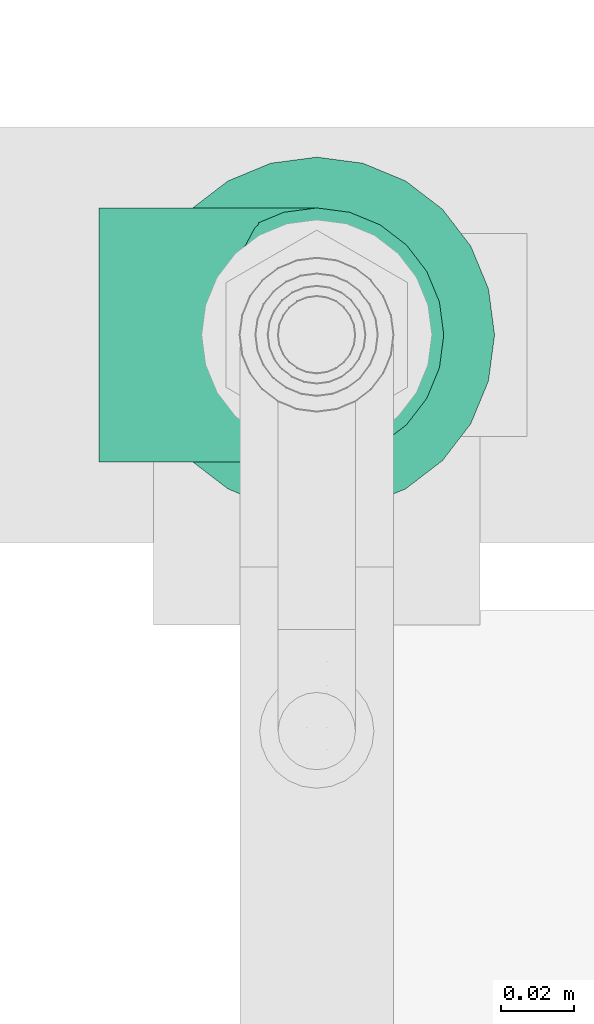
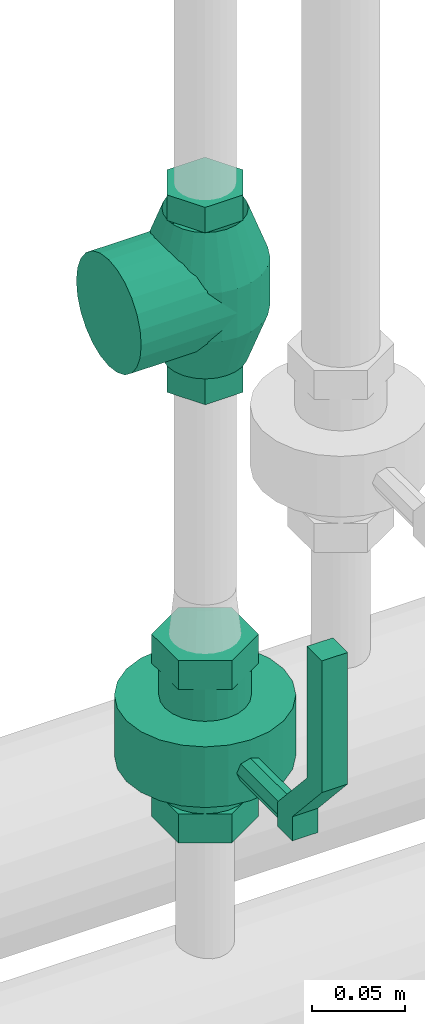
# One storey, part 264 of 374: 1 distribution control element, 1 flow controller.
"""IFC2X3 building model written with IfcOpenShell, lengths in metres."""

import ifcopenshell
import ifcopenshell.guid

model = None  # the IFC model being written
_history = None  # IfcOwnerHistory: only IFC2X3 demands one
_inside = {}  # id of a spatial element -> (the spatial element, [elements in it])
_under = {}  # id of a project, library or spatial element -> (it, [spatial elements below it])
_declared = {}  # id of a project -> (the project, [libraries it declares])
_typed = {}  # id of a type object -> (the type object, [elements of that type])
_made_of = {}  # id of a material, layer set ... -> (it, [elements and type objects made of it])


def new_model(schema):
    """Start an empty IFC model of exactly this schema.

    Asked for "IFC4X3", IfcOpenShell would pick the latest addendum, in which some entities
    have other attributes; the version numbers below select the first issue.
    IFC2X3 requires an IfcOwnerHistory on every rooted entity: one is made here for all.
    """
    global model, _history
    if schema == "IFC4X3":
        model = ifcopenshell.file(schema_version=(4, 3, 0, 0))
    else:
        model = ifcopenshell.file(schema=schema)
    _inside.clear()
    _under.clear()
    _declared.clear()
    _typed.clear()
    _made_of.clear()
    _history = None
    if model.schema == "IFC2X3":
        org = make("IfcOrganization", Name="unknown")
        user = make(
            "IfcPersonAndOrganization",
            ThePerson=make("IfcPerson", FamilyName="unknown"),
            TheOrganization=org,
        )
        app = make(
            "IfcApplication",
            ApplicationDeveloper=org,
            Version="unknown",
            ApplicationFullName="unknown",
            ApplicationIdentifier="unknown",
        )
        _history = make(
            "IfcOwnerHistory",
            OwningUser=user,
            OwningApplication=app,
            ChangeAction="ADDED",
            CreationDate=0,
        )
    return model


def make(cls, **values):
    """One entity of the class cls with the attributes given. An attribute that is None is left unset."""
    return model.create_entity(
        cls, **{name: value for name, value in values.items() if value is not None}
    )


def rooted(cls, **values):
    """An entity with a GlobalId (a new one), such as an element, a storey or a relation."""
    return make(cls, GlobalId=ifcopenshell.guid.new(), OwnerHistory=_history, **values)


def si_unit(unit_type, name, prefix=None):
    """IfcSIUnit, for example si_unit("LENGTHUNIT", "METRE", prefix="MILLI")."""
    return make("IfcSIUnit", UnitType=unit_type, Prefix=prefix, Name=name)


def assignment(units):
    """IfcUnitAssignment: the units of a project."""
    return None if units is None else make("IfcUnitAssignment", Units=units)


def point(xyz):
    """IfcCartesianPoint."""
    return None if xyz is None else make("IfcCartesianPoint", Coordinates=xyz)


def direction(xyz):
    """IfcDirection."""
    return None if xyz is None else make("IfcDirection", DirectionRatios=xyz)


def frame(location, z_axis=None, x_axis=None):
    """IfcAxis2Placement3D, a coordinate frame: its origin and axes. An axis left out is left unset."""
    return make(
        "IfcAxis2Placement3D",
        Location=point(location),
        Axis=direction(z_axis),
        RefDirection=direction(x_axis),
    )


def origin():
    """The frame at (0, 0, 0) with its axes left unset."""
    return frame((0.0, 0.0, 0.0))


def place(relative_to, where):
    """IfcLocalPlacement: puts the frame where relative to a parent placement (None: the world)."""
    return make(
        "IfcLocalPlacement", PlacementRelTo=relative_to, RelativePlacement=where
    )


def context(
    kind, dimensions, precision=None, world=None, true_north=None, identifier=None
):
    """IfcGeometricRepresentationContext, for example the 3D "Model" context."""
    return make(
        "IfcGeometricRepresentationContext",
        ContextIdentifier=identifier,
        ContextType=kind,
        CoordinateSpaceDimension=dimensions,
        Precision=precision,
        WorldCoordinateSystem=world,
        TrueNorth=true_north,
    )


def subcontext(parent, identifier, kind, view, scale=None):
    """IfcGeometricRepresentationSubContext, for example "Body" below "Model"."""
    return make(
        "IfcGeometricRepresentationSubContext",
        ContextIdentifier=identifier,
        ContextType=kind,
        ParentContext=parent,
        TargetScale=scale,
        TargetView=view,
    )


def project(units=None, contexts=None):
    """IfcProject with its units and contexts."""
    return rooted(
        "IfcProject",
        Name="project",
        RepresentationContexts=contexts,
        UnitsInContext=assignment(units),
    )


def spatial(cls, under=None, at=None, **own):
    """A site, building, storey or space (cls), placed at a placement, below another one or the project."""
    s = rooted(cls, ObjectPlacement=at, **own)
    if under is not None:
        _under.setdefault(under.id(), (under, []))[1].append(s)
    return s


def faces_of(points, faces, orient=None, outer=None):
    """IfcFace entities. A face is a list of loops; a loop is a list of indices into points, from 0.

    orient and outer hold one flag for each loop. By default every Orientation is true, the
    first loop of a face is its IfcFaceOuterBound and the others are IfcFaceBound.
    """
    made = []
    for i, loops in enumerate(faces):
        bounds = []
        for j, loop in enumerate(loops):
            is_outer = j == 0 if outer is None else outer[i][j]
            bounds.append(
                make(
                    "IfcFaceOuterBound" if is_outer else "IfcFaceBound",
                    Bound=make("IfcPolyLoop", Polygon=[points[k] for k in loop]),
                    Orientation=True if orient is None else orient[i][j],
                )
            )
        made.append(make("IfcFace", Bounds=bounds))
    return made


def open_shell(faces, orient=None, outer=None):
    """The faces of one IfcOpenShell. surface_model builds it on its shared points."""
    return ("IfcOpenShell", faces, orient, outer)


def surface_model(cls, points, shells):
    """IfcFaceBasedSurfaceModel or IfcShellBasedSurfaceModel (cls): surfaces that need not close."""
    shared = [point(p) for p in points]
    made = [make(c, CfsFaces=faces_of(shared, fs, o, b)) for c, fs, o, b in shells]
    if cls == "IfcFaceBasedSurfaceModel":
        return make(cls, FbsmFaces=made)
    return make(cls, SbsmBoundary=made)


def shape(context_of_items, identifier, shape_type, items):
    """IfcShapeRepresentation: the items that make up one representation, for example the "Body"."""
    return make(
        "IfcShapeRepresentation",
        ContextOfItems=context_of_items,
        RepresentationIdentifier=identifier,
        RepresentationType=shape_type,
        Items=items,
    )


def source(mapping_origin, context_of_items, identifier, shape_type, items):
    """IfcRepresentationMap: a shape defined once, which mapped items show again and again."""
    return make(
        "IfcRepresentationMap",
        MappingOrigin=mapping_origin,
        MappedRepresentation=shape(context_of_items, identifier, shape_type, items),
    )


def transform(
    local_origin,
    x_axis=None,
    y_axis=None,
    z_axis=None,
    scale=None,
    scale2=None,
    scale3=None,
    uniform=True,
):
    """IfcCartesianTransformationOperator3D, or its non-uniform kind. x_axis, y_axis, z_axis: its Axis1, 2, 3."""
    if uniform:
        return make(
            "IfcCartesianTransformationOperator3D",
            Axis1=direction(x_axis),
            Axis2=direction(y_axis),
            LocalOrigin=point(local_origin),
            Scale=scale,
            Axis3=direction(z_axis),
        )
    return make(
        "IfcCartesianTransformationOperator3DnonUniform",
        Axis1=direction(x_axis),
        Axis2=direction(y_axis),
        LocalOrigin=point(local_origin),
        Scale=scale,
        Axis3=direction(z_axis),
        Scale2=scale2,
        Scale3=scale3,
    )


def mapped(mapping_source, mapping_target):
    """IfcMappedItem: shows the shape of a source again, moved by a transform."""
    return make(
        "IfcMappedItem", MappingSource=mapping_source, MappingTarget=mapping_target
    )


def made_of(thing, what):
    """Note that an element or type object is made of a material, layer set ...; save() writes the relation."""
    if what is not None:
        _made_of.setdefault(what.id(), (what, []))[1].append(thing)
    return thing


def element(
    cls,
    number,
    at=None,
    inside=None,
    cuts=None,
    type_object=None,
    material=None,
    context=None,
    identifier="Body",
    shape_type=None,
    held_by="IfcProductDefinitionShape",
    body=None,
    shapes=None,
    **own,
):
    """One element of the class cls, such as IfcWall. Its Tag is "e" and its number.

    at: its placement. inside: the storey or other place that contains it. cuts: it is an
    opening in that element (IfcRelVoidsElement). A single representation is given by context,
    identifier, shape_type and body (its items); several are given by shapes. held_by: the class
    of the entity that holds the representations. save() writes the other relations.
    """
    e = rooted(cls, Tag="e%d" % number, ObjectPlacement=at, **own)
    if body is not None:
        shapes = [shape(context, identifier, shape_type, body)]
    if shapes is not None:
        e.Representation = make(held_by, Representations=shapes)
    if inside is not None:
        _inside.setdefault(inside.id(), (inside, []))[1].append(e)
    if cuts is not None:
        rooted(
            "IfcRelVoidsElement", RelatingBuildingElement=cuts, RelatedOpeningElement=e
        )
    if type_object is not None:
        _typed.setdefault(type_object.id(), (type_object, []))[1].append(e)
    return made_of(e, material)


def aggregate(whole, parts):
    """IfcRelAggregates: a whole, such as a stair, and the parts it consists of."""
    return rooted("IfcRelAggregates", RelatingObject=whole, RelatedObjects=parts)


def save(model, path):
    """Write the relations noted so far, then the file.

    IfcRelAggregates (storeys below a building ...), IfcRelContainedInSpatialStructure (elements
    in a storey), IfcRelDefinesByType, IfcRelAssociatesMaterial and IfcRelDeclares: one each for
    every whole, place, type object, material and project.
    """
    for whole, parts in _under.values():
        aggregate(whole, parts)
    for where, things in _inside.values():
        rooted(
            "IfcRelContainedInSpatialStructure",
            RelatedElements=things,
            RelatingStructure=where,
        )
    for kind, things in _typed.values():
        rooted("IfcRelDefinesByType", RelatedObjects=things, RelatingType=kind)
    for what, things in _made_of.values():
        rooted("IfcRelAssociatesMaterial", RelatedObjects=things, RelatingMaterial=what)
    for by, libraries in _declared.values():
        rooted("IfcRelDeclares", RelatingContext=by, RelatedDefinitions=libraries)
    model.write(path)


model = new_model("IFC2X3")

# Units and contexts
model_context = context("Model", 3, precision=1e-05, world=origin(), true_north=direction((-0.4480736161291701, 0.8939966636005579)))
body_context = subcontext(model_context, "Body", "Model", "MODEL_VIEW")
ifc_project = project(units=[si_unit("LENGTHUNIT", "METRE"), si_unit("AREAUNIT", "SQUARE_METRE"), si_unit("VOLUMEUNIT", "CUBIC_METRE"), si_unit("PLANEANGLEUNIT", "RADIAN"), si_unit("THERMODYNAMICTEMPERATUREUNIT", "KELVIN"), si_unit("MASSUNIT", "GRAM", prefix="KILO"), si_unit("TIMEUNIT", "SECOND")], contexts=[model_context])

# Site, building, storey
site_placement = place(None, origin())
site = spatial("IfcSite", under=ifc_project, at=site_placement, Name="Site 1", CompositionType="ELEMENT")
building_placement = place(site_placement, origin())
building = spatial("IfcBuilding", under=site, at=building_placement, Name="Undefined", CompositionType="ELEMENT")
storey_placement = place(building_placement, origin())
storey = spatial("IfcBuildingStorey", under=building, at=storey_placement, Name="Rez de chauss\x8ee", CompositionType="ELEMENT", Elevation=0.0)

# Flow controller
shared_shape_1 = source(origin(), body_context, "Body", "SurfaceModel", [
    surface_model("IfcFaceBasedSurfaceModel", [(0.0, 0.0, 0.0), (0.016000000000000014, 0.0, 0.0), (0.016000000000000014, 0.015999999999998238, 0.0), (0.0, 0.015999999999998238, 0.0), (0.016000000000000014, 0.0, 0.016000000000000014), (0.016000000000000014, 0.015999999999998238, 0.016000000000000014), (0.0, 0.0, 0.016000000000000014), (0.0, 0.015999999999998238, 0.016000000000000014), (-0.03533333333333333, 0.0, 0.04800000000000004), (-0.03533333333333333, 0.015999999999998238, 0.04800000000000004), (-0.122, 0.0, 0.04800000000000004), (-0.122, 0.015999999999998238, 0.04800000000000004), (-0.122, 0.0, 0.03200000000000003), (-0.122, 0.015999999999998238, 0.03200000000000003), (-0.03533333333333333, 0.0, 0.03200000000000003), (-0.03533333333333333, 0.015999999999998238, 0.03200000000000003), (0.06800000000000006, 0.03300000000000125, -0.10643375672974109), (0.06800000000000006, 0.03300000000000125, -0.07756624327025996), (0.0489, 0.03300000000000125, -0.07756624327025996), (0.0489, 0.03300000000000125, -0.10643375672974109), (0.06800000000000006, 0.007999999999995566, -0.12086751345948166), (0.0489, 0.007999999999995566, -0.12086751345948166), (0.06800000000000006, -0.017000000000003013, -0.10643375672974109), (0.0489, -0.017000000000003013, -0.10643375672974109), (0.06800000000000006, -0.017000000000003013, -0.07756624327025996), (0.0489, -0.017000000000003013, -0.07756624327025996), (0.06800000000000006, 0.007999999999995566, -0.06313248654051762), (0.0489, 0.007999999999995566, -0.06313248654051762), (0.0489, -0.017000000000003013, -0.09200000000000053), (0.0489, -0.016148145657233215, -0.08552952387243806), (0.028000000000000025, -0.016148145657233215, -0.08552952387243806), (0.028000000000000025, -0.017000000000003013, -0.09200000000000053), (0.0489, -0.0136506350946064, -0.07949999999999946), (0.028000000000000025, -0.0136506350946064, -0.07949999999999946), (0.0489, -0.009677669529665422, -0.07432233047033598), (0.028000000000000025, -0.009677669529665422, -0.07432233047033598), (0.0489, -0.0045000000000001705, -0.07034936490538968), (0.028000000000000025, -0.0045000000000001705, -0.07034936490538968), (0.0489, 0.0015295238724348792, -0.06785185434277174), (0.028000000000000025, 0.0015295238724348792, -0.06785185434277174), (0.0489, 0.007999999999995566, -0.06700000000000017), (0.028000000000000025, 0.007999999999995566, -0.06700000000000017), (0.0489, 0.014470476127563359, -0.06785185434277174), (0.028000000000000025, 0.014470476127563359, -0.06785185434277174), (0.0489, 0.02049999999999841, -0.07034936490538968), (0.028000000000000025, 0.02049999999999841, -0.07034936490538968), (0.0489, 0.02567766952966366, -0.07432233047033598), (0.028000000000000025, 0.02567766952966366, -0.07432233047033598), (0.0489, 0.029650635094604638, -0.07949999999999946), (0.028000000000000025, 0.029650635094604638, -0.07949999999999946), (0.0489, 0.03214814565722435, -0.08552952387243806), (0.028000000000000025, 0.03214814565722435, -0.08552952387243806), (0.0489, 0.03300000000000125, -0.09200000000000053), (0.028000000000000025, 0.03300000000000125, -0.09200000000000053), (0.0489, 0.03214814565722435, -0.09847047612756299), (0.028000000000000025, 0.03214814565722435, -0.09847047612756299), (0.0489, 0.029650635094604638, -0.10449999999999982), (0.028000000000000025, 0.029650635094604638, -0.10449999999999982), (0.0489, 0.02567766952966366, -0.10967766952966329), (0.028000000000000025, 0.02567766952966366, -0.10967766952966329), (0.0489, 0.02049999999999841, -0.11365063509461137), (0.028000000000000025, 0.02049999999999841, -0.11365063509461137), (0.0489, 0.014470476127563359, -0.11614814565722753), (0.028000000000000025, 0.014470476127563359, -0.11614814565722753), (0.0489, 0.007999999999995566, -0.1169999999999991), (0.028000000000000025, 0.007999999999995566, -0.1169999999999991), (0.0489, 0.0015295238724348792, -0.11614814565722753), (0.028000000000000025, 0.0015295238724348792, -0.11614814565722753), (0.0489, -0.0045000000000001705, -0.11365063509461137), (0.028000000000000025, -0.0045000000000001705, -0.11365063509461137), (0.0489, -0.009677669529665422, -0.10967766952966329), (0.028000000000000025, -0.009677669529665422, -0.10967766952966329), (0.0489, -0.0136506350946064, -0.10449999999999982), (0.028000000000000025, -0.0136506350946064, -0.10449999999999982), (0.0489, -0.016148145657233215, -0.09847047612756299), (0.028000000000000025, -0.016148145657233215, -0.09847047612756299), (0.028000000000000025, -0.04100000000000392, -0.09200000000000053), (0.028000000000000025, -0.03933036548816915, -0.07931786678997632), (-0.01200000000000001, -0.03933036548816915, -0.07931786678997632), (-0.01200000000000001, -0.04100000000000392, -0.09200000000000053), (0.028000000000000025, -0.03443524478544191, -0.067499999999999), (-0.01200000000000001, -0.03443524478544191, -0.067499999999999), (0.028000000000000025, -0.026648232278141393, -0.05735176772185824), (-0.01200000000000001, -0.026648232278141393, -0.05735176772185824), (0.028000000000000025, -0.016500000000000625, -0.049564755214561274), (-0.01200000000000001, -0.016500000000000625, -0.049564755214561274), (0.028000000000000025, -0.004682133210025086, -0.04466963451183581), (-0.01200000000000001, -0.004682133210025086, -0.04466963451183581), (0.028000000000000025, 0.007999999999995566, -0.04299999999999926), (-0.01200000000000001, 0.007999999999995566, -0.04299999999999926), (0.028000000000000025, 0.020682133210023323, -0.04466963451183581), (-0.01200000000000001, 0.020682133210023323, -0.04466963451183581), (0.028000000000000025, 0.03249999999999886, -0.049564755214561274), (-0.01200000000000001, 0.03249999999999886, -0.049564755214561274), (0.028000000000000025, 0.04264823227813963, -0.05735176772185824), (-0.01200000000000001, 0.04264823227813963, -0.05735176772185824), (0.028000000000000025, 0.05043524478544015, -0.067499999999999), (-0.01200000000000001, 0.05043524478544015, -0.067499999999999), (0.028000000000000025, 0.05533036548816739, -0.0793178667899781), (-0.01200000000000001, 0.05533036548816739, -0.0793178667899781), (0.028000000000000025, 0.05700000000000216, -0.09200000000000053), (-0.01200000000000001, 0.05700000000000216, -0.09200000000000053), (0.028000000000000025, 0.05533036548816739, -0.10468213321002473), (-0.01200000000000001, 0.05533036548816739, -0.10468213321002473), (0.028000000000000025, 0.05043524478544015, -0.11650000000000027), (-0.01200000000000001, 0.05043524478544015, -0.11650000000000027), (0.028000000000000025, 0.04264823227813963, -0.12664823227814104), (-0.01200000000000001, 0.04264823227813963, -0.12664823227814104), (0.028000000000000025, 0.03249999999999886, -0.134435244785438), (-0.01200000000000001, 0.03249999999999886, -0.134435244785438), (0.028000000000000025, 0.020682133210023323, -0.13933036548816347), (-0.01200000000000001, 0.020682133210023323, -0.13933036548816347), (0.028000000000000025, 0.007999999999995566, -0.14100000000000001), (-0.01200000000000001, 0.007999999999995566, -0.14100000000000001), (0.028000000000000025, -0.004682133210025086, -0.13933036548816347), (-0.01200000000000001, -0.004682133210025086, -0.13933036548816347), (0.028000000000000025, -0.016500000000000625, -0.134435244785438), (-0.01200000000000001, -0.016500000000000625, -0.134435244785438), (0.028000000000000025, -0.026648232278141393, -0.12664823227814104), (-0.01200000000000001, -0.026648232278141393, -0.12664823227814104), (0.028000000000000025, -0.03443524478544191, -0.11650000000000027), (-0.01200000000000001, -0.03443524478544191, -0.11650000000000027), (0.028000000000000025, -0.03933036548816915, -0.10468213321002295), (-0.01200000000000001, -0.03933036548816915, -0.10468213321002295), (0.028000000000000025, 0.007999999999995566, -0.09200000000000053), (-0.01200000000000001, 0.007999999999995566, -0.09200000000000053), (-0.01200000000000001, -0.017000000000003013, -0.09200000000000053), (-0.01200000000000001, -0.016148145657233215, -0.08552952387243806), (-0.03289999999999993, -0.016148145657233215, -0.08552952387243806), (-0.03289999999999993, -0.017000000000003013, -0.09200000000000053), (-0.01200000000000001, -0.0136506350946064, -0.07949999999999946), (-0.03289999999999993, -0.0136506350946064, -0.07949999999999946), (-0.01200000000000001, -0.009677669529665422, -0.07432233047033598), (-0.03289999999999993, -0.009677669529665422, -0.07432233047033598), (-0.01200000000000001, -0.0045000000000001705, -0.07034936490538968), (-0.03289999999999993, -0.0045000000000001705, -0.07034936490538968), (-0.01200000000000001, 0.0015295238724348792, -0.06785185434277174), (-0.03289999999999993, 0.0015295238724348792, -0.06785185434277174), (-0.01200000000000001, 0.007999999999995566, -0.06700000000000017), (-0.03289999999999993, 0.007999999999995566, -0.06700000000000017), (-0.01200000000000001, 0.014470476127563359, -0.06785185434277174), (-0.03289999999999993, 0.014470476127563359, -0.06785185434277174), (-0.01200000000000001, 0.02049999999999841, -0.07034936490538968), (-0.03289999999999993, 0.02049999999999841, -0.07034936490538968), (-0.01200000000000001, 0.02567766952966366, -0.07432233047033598), (-0.03289999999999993, 0.02567766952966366, -0.07432233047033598), (-0.01200000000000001, 0.029650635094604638, -0.07949999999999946), (-0.03289999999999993, 0.029650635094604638, -0.07949999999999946), (-0.01200000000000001, 0.03214814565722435, -0.08552952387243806), (-0.03289999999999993, 0.03214814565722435, -0.08552952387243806), (-0.01200000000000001, 0.03300000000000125, -0.09200000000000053), (-0.03289999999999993, 0.03300000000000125, -0.09200000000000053), (-0.01200000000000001, 0.03214814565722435, -0.09847047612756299), (-0.03289999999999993, 0.03214814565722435, -0.09847047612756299), (-0.01200000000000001, 0.029650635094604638, -0.10449999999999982), (-0.03289999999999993, 0.029650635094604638, -0.10449999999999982), (-0.01200000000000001, 0.02567766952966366, -0.10967766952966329), (-0.03289999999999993, 0.02567766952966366, -0.10967766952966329), (-0.01200000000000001, 0.02049999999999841, -0.11365063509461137), (-0.03289999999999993, 0.02049999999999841, -0.11365063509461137), (-0.01200000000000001, 0.014470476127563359, -0.11614814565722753), (-0.03289999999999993, 0.014470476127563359, -0.11614814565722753), (-0.01200000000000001, 0.007999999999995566, -0.1169999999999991), (-0.03289999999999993, 0.007999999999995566, -0.1169999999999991), (-0.01200000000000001, 0.0015295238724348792, -0.11614814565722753), (-0.03289999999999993, 0.0015295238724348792, -0.11614814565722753), (-0.01200000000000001, -0.0045000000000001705, -0.11365063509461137), (-0.03289999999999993, -0.0045000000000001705, -0.11365063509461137), (-0.01200000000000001, -0.009677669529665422, -0.10967766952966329), (-0.03289999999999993, -0.009677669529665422, -0.10967766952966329), (-0.01200000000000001, -0.0136506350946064, -0.10449999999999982), (-0.03289999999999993, -0.0136506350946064, -0.10449999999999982), (-0.01200000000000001, -0.016148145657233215, -0.09847047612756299), (-0.03289999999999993, -0.016148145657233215, -0.09847047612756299), (-0.03289999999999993, 0.03300000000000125, -0.10643375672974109), (-0.03289999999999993, 0.03300000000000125, -0.07756624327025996), (-0.051999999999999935, 0.03300000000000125, -0.07756624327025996), (-0.051999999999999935, 0.03300000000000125, -0.10643375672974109), (-0.03289999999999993, 0.007999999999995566, -0.12086751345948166), (-0.051999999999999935, 0.007999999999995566, -0.12086751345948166), (-0.03289999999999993, -0.017000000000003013, -0.10643375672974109), (-0.051999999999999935, -0.017000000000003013, -0.10643375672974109), (-0.03289999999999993, -0.017000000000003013, -0.07756624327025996), (-0.051999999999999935, -0.017000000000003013, -0.07756624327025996), (-0.03289999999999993, 0.007999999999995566, -0.06313248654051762), (-0.051999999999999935, 0.007999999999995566, -0.06313248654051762), (0.0, 0.007999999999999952, -0.09199999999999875), (0.002343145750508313, 0.0023431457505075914, -0.09199999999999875), (0.002343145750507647, 0.002343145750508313, 0.0), (0.0, 0.008, 0.0), (0.008000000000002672, 0.0, -0.09199999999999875), (0.008000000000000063, 0.0, 0.0), (0.01365685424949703, 0.0023431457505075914, -0.09199999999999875), (0.013656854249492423, 0.002343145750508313, 0.0), (0.016000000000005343, 0.007999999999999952, -0.09199999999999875), (0.016000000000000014, 0.008000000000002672, 0.0), (0.01365685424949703, 0.013656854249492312, -0.09199999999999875), (0.013656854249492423, 0.013656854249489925, 0.0), (0.008000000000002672, 0.01599999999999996, -0.09199999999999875), (0.008000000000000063, 0.015999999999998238, 0.0), (0.002343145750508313, 0.013656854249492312, -0.09199999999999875), (0.002343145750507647, 0.013656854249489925, 0.0)], [open_shell([[[0, 1, 2, 3]], [[1, 4, 5, 2]], [[4, 6, 7, 5]], [[6, 8, 9, 7]], [[8, 10, 11, 9]], [[10, 12, 13, 11]], [[12, 14, 15, 13]], [[14, 0, 3, 15]], [[3, 7, 2]], [[7, 3, 9]], [[15, 9, 3]], [[9, 15, 11]], [[13, 11, 15]], [[5, 2, 7]], [[1, 6, 0]], [[8, 0, 6]], [[0, 8, 14]], [[10, 14, 8]], [[14, 10, 12]], [[6, 1, 4]], [[16, 17, 18, 19]], [[20, 16, 19, 21]], [[22, 20, 21, 23]], [[24, 22, 23, 25]], [[26, 24, 25, 27]], [[17, 26, 27, 18]], [[17, 16, 20]], [[17, 20, 22]], [[17, 22, 24]], [[17, 24, 26]], [[18, 21, 19]], [[18, 23, 21]], [[18, 25, 23]], [[18, 27, 25]], [[28, 29, 30, 31]], [[29, 32, 33, 30]], [[32, 34, 35, 33]], [[34, 36, 37, 35]], [[36, 38, 39, 37]], [[38, 40, 41, 39]], [[40, 42, 43, 41]], [[42, 44, 45, 43]], [[44, 46, 47, 45]], [[46, 48, 49, 47]], [[48, 50, 51, 49]], [[50, 52, 53, 51]], [[52, 54, 55, 53]], [[54, 56, 57, 55]], [[56, 58, 59, 57]], [[58, 60, 61, 59]], [[60, 62, 63, 61]], [[62, 64, 65, 63]], [[64, 66, 67, 65]], [[66, 68, 69, 67]], [[68, 70, 71, 69]], [[70, 72, 73, 71]], [[72, 74, 75, 73]], [[74, 28, 31, 75]], [[76, 77, 78, 79]], [[77, 80, 81, 78]], [[80, 82, 83, 81]], [[82, 84, 85, 83]], [[84, 86, 87, 85]], [[86, 88, 89, 87]], [[88, 90, 91, 89]], [[90, 92, 93, 91]], [[92, 94, 95, 93]], [[94, 96, 97, 95]], [[96, 98, 99, 97]], [[98, 100, 101, 99]], [[100, 102, 103, 101]], [[102, 104, 105, 103]], [[104, 106, 107, 105]], [[106, 108, 109, 107]], [[108, 110, 111, 109]], [[110, 112, 113, 111]], [[112, 114, 115, 113]], [[114, 116, 117, 115]], [[116, 118, 119, 117]], [[118, 120, 121, 119]], [[120, 122, 123, 121]], [[122, 76, 79, 123]], [[124, 77, 76]], [[124, 80, 77]], [[124, 82, 80]], [[124, 84, 82]], [[124, 86, 84]], [[124, 88, 86]], [[124, 90, 88]], [[124, 92, 90]], [[124, 94, 92]], [[124, 96, 94]], [[124, 98, 96]], [[124, 100, 98]], [[124, 102, 100]], [[124, 104, 102]], [[124, 106, 104]], [[124, 108, 106]], [[124, 110, 108]], [[124, 112, 110]], [[124, 114, 112]], [[124, 116, 114]], [[124, 118, 116]], [[124, 120, 118]], [[124, 122, 120]], [[124, 76, 122]], [[125, 123, 79]], [[125, 121, 123]], [[125, 119, 121]], [[125, 117, 119]], [[125, 115, 117]], [[125, 113, 115]], [[125, 111, 113]], [[125, 109, 111]], [[125, 107, 109]], [[125, 105, 107]], [[125, 103, 105]], [[125, 101, 103]], [[125, 99, 101]], [[125, 97, 99]], [[125, 95, 97]], [[125, 93, 95]], [[125, 91, 93]], [[125, 89, 91]], [[125, 87, 89]], [[125, 85, 87]], [[125, 83, 85]], [[125, 81, 83]], [[125, 78, 81]], [[125, 79, 78]], [[126, 127, 128, 129]], [[127, 130, 131, 128]], [[130, 132, 133, 131]], [[132, 134, 135, 133]], [[134, 136, 137, 135]], [[136, 138, 139, 137]], [[138, 140, 141, 139]], [[140, 142, 143, 141]], [[142, 144, 145, 143]], [[144, 146, 147, 145]], [[146, 148, 149, 147]], [[148, 150, 151, 149]], [[150, 152, 153, 151]], [[152, 154, 155, 153]], [[154, 156, 157, 155]], [[156, 158, 159, 157]], [[158, 160, 161, 159]], [[160, 162, 163, 161]], [[162, 164, 165, 163]], [[164, 166, 167, 165]], [[166, 168, 169, 167]], [[168, 170, 171, 169]], [[170, 172, 173, 171]], [[172, 126, 129, 173]], [[174, 175, 176, 177]], [[178, 174, 177, 179]], [[180, 178, 179, 181]], [[182, 180, 181, 183]], [[184, 182, 183, 185]], [[175, 184, 185, 176]], [[175, 174, 178]], [[175, 178, 180]], [[175, 180, 182]], [[175, 182, 184]], [[176, 179, 177]], [[176, 181, 179]], [[176, 183, 181]], [[176, 185, 183]], [[186, 187, 188, 189]], [[187, 190, 191, 188]], [[190, 192, 193, 191]], [[192, 194, 195, 193]], [[194, 196, 197, 195]], [[196, 198, 199, 197]], [[198, 200, 201, 199]], [[200, 186, 189, 201]]])]),
])
flow_controller_placement = place(storey_placement, origin())
element("IfcFlowController", 1, at=flow_controller_placement, inside=storey, Name="Robinet à boisseau sphérique", ObjectType="Robinet à boisseau sphérique", context=body_context, shape_type="MappedRepresentation", body=[
    mapped(shared_shape_1, transform((53.649562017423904, 10.626037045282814, 0.5060500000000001), x_axis=(0.0, 0.0, -1.0), y_axis=(1.0, 0.0, 0.0), z_axis=(0.0, -1.0, 0.0))),
])

# Distribution control element
shared_shape_2 = source(origin(), body_context, "Body", "SurfaceModel", [
    surface_model("IfcFaceBasedSurfaceModel", [(0.0, 0.0, 0.0), (0.02367136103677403, 0.0, 0.0), (0.02367136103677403, 0.016799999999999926, 0.0), (0.0, 0.016799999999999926, 0.0), (-0.011835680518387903, 0.0, 0.02049999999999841), (-0.011835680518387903, 0.016799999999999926, 0.02049999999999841), (0.0, 0.0, 0.04100000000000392), (0.0, 0.016799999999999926, 0.04100000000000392), (0.02367136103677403, 0.0, 0.04100000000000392), (0.02367136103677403, 0.016799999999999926, 0.04100000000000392), (0.03550704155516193, 0.0, 0.02049999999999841), (0.03550704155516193, 0.016799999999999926, 0.02049999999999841), (-0.01149765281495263, 0.016799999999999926, 0.020500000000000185), (-0.010702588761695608, 0.016799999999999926, 0.026539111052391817), (-0.021971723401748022, 0.04893333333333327, 0.029558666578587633), (-0.023164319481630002, 0.04893333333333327, 0.020500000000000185), (-0.00837157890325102, 0.016799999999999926, 0.03216666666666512), (-0.018475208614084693, 0.04893333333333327, 0.03799999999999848), (-0.004663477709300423, 0.016799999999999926, 0.03699915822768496), (-0.012913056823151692, 0.04893333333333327, 0.045248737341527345), (0.0001690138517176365, 0.016799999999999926, 0.04070725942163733), (-0.005664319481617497, 0.04893333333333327, 0.05081088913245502), (0.005796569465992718, 0.016799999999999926, 0.04303826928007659), (0.0027770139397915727, 0.04893333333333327, 0.05430740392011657), (0.011835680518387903, 0.016799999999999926, 0.04383333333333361), (0.011835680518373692, 0.04893333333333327, 0.05550000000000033), (0.017874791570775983, 0.016799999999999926, 0.04303826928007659), (0.020894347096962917, 0.04893333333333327, 0.05430740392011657), (0.023502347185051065, 0.016799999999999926, 0.04070725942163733), (0.029335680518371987, 0.04893333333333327, 0.05081088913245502), (0.028334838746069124, 0.016799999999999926, 0.03699915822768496), (0.03658441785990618, 0.04893333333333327, 0.045248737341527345), (0.03204293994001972, 0.016799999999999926, 0.03216666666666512), (0.04214656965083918, 0.04893333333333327, 0.03799999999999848), (0.03437394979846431, 0.016799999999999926, 0.026539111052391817), (0.0456430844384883, 0.04893333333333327, 0.029558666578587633), (0.03516901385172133, 0.016799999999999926, 0.020500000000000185), (0.04683568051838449, 0.04893333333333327, 0.020500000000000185), (0.03437394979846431, 0.016799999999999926, 0.014460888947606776), (0.0456430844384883, 0.04893333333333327, 0.01144133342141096), (0.03204293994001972, 0.016799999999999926, 0.00883333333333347), (0.04214656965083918, 0.04893333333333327, 0.0030000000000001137), (0.028334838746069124, 0.016799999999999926, 0.004000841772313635), (0.03658441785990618, 0.04893333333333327, -0.004248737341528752), (0.023502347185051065, 0.016799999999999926, 0.0002927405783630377), (0.029335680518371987, 0.04893333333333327, -0.009810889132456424), (0.017874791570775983, 0.016799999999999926, -0.002038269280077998), (0.020894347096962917, 0.04893333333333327, -0.013307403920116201), (0.011835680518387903, 0.016799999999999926, -0.0028333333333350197), (0.011835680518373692, 0.04893333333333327, -0.014500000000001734), (0.005796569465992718, 0.016799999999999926, -0.002038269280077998), (0.0027770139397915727, 0.04893333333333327, -0.013307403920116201), (0.0001690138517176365, 0.016799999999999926, 0.0002927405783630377), (-0.005664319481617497, 0.04893333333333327, -0.009810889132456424), (-0.004663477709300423, 0.016799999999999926, 0.004000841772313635), (-0.012913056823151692, 0.04893333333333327, -0.004248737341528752), (-0.00837157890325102, 0.016799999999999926, 0.00883333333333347), (-0.018475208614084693, 0.04893333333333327, 0.0030000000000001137), (-0.010702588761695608, 0.016799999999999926, 0.014460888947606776), (-0.021971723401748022, 0.04893333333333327, 0.01144133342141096), (0.020894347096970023, 0.08106666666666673, 0.05430740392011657), (0.011835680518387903, 0.08106666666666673, 0.05550000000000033), (0.029335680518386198, 0.08106666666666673, 0.05081088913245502), (0.03658441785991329, 0.08106666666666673, 0.04524873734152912), (0.04214656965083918, 0.08106666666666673, 0.038000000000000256), (0.04564308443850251, 0.08106666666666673, 0.029558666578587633), (0.04683568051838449, 0.08106666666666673, 0.020500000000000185), (0.04564308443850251, 0.08106666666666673, 0.01144133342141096), (0.04214656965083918, 0.08106666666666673, 0.0030000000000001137), (0.03658441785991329, 0.08106666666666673, -0.0042487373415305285), (0.029335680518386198, 0.08106666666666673, -0.009810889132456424), (0.020894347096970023, 0.08106666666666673, -0.013307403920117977), (0.011835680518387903, 0.08106666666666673, -0.014499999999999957), (0.002777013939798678, 0.08106666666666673, -0.013307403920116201), (-0.005664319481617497, 0.08106666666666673, -0.009810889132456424), (-0.012913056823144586, 0.08106666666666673, -0.0042487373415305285), (-0.018475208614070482, 0.08106666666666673, 0.0030000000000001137), (-0.02197172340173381, 0.08106666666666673, 0.01144133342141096), (-0.02316431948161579, 0.08106666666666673, 0.020500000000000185), (-0.02197172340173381, 0.08106666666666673, 0.029558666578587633), (-0.018475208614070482, 0.08106666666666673, 0.038000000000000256), (-0.012913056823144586, 0.08106666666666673, 0.04524873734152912), (-0.005664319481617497, 0.08106666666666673, 0.05081088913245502), (0.002777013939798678, 0.08106666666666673, 0.05430740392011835), (-0.010702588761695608, 0.11320000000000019, 0.026539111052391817), (-0.011497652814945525, 0.11320000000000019, 0.020500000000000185), (-0.008371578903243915, 0.11320000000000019, 0.03216666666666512), (-0.004663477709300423, 0.11320000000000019, 0.03699915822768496), (0.0001690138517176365, 0.11320000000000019, 0.04070725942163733), (0.005796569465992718, 0.11320000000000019, 0.04303826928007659), (0.011835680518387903, 0.11320000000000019, 0.043833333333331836), (0.017874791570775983, 0.11320000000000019, 0.04303826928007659), (0.02350234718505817, 0.11320000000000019, 0.04070725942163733), (0.028334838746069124, 0.11320000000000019, 0.03699915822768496), (0.03204293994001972, 0.11320000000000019, 0.03216666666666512), (0.03437394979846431, 0.11320000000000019, 0.026539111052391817), (0.03516901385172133, 0.11320000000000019, 0.020500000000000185), (0.03437394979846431, 0.11320000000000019, 0.014460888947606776), (0.03204293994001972, 0.11320000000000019, 0.008833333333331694), (0.028334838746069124, 0.11320000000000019, 0.004000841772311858), (0.02350234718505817, 0.11320000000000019, 0.0002927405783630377), (0.017874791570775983, 0.11320000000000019, -0.002038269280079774), (0.011835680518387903, 0.11320000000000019, -0.0028333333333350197), (0.005796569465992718, 0.11320000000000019, -0.002038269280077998), (0.0001690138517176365, 0.11320000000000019, 0.0002927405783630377), (-0.004663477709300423, 0.11320000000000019, 0.004000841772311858), (-0.008371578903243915, 0.11320000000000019, 0.008833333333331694), (-0.010702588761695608, 0.11320000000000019, 0.014460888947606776), (0.011835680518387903, 0.06499999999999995, 0.05550000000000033), (0.011835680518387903, 0.05594133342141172, 0.05430740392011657), (0.07183568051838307, 0.05594133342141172, 0.05430740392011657), (0.07183568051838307, 0.06499999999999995, 0.05550000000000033), (0.011835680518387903, 0.04749999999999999, 0.05081088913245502), (0.07183568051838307, 0.04749999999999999, 0.05081088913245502), (0.011835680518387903, 0.0402512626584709, 0.04524873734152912), (0.07183568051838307, 0.0402512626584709, 0.04524873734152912), (0.011835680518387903, 0.03468911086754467, 0.038000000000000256), (0.07183568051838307, 0.03468911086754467, 0.038000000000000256), (0.011835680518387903, 0.031192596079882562, 0.029558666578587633), (0.07183568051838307, 0.031192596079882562, 0.029558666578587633), (0.011835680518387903, 0.030000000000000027, 0.020500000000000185), (0.07183568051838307, 0.030000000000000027, 0.020500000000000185), (0.011835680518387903, 0.031192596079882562, 0.01144133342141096), (0.07183568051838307, 0.031192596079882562, 0.01144133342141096), (0.011835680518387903, 0.03468911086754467, 0.0030000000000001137), (0.07183568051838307, 0.03468911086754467, 0.0030000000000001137), (0.011835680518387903, 0.0402512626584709, -0.0042487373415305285), (0.07183568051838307, 0.0402512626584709, -0.0042487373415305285), (0.011835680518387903, 0.04749999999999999, -0.009810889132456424), (0.07183568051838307, 0.04749999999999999, -0.009810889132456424), (0.011835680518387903, 0.05594133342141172, -0.013307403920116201), (0.07183568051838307, 0.05594133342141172, -0.013307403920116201), (0.011835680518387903, 0.06499999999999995, -0.014499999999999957), (0.07183568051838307, 0.06499999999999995, -0.014499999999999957), (0.011835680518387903, 0.07405866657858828, -0.013307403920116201), (0.07183568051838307, 0.07405866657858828, -0.013307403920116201), (0.011835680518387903, 0.08250000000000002, -0.009810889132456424), (0.07183568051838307, 0.08250000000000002, -0.009810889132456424), (0.011835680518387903, 0.0897487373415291, -0.0042487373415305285), (0.07183568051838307, 0.0897487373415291, -0.0042487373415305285), (0.011835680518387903, 0.09531088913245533, 0.0030000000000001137), (0.07183568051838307, 0.09531088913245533, 0.0030000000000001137), (0.011835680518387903, 0.09880740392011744, 0.01144133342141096), (0.07183568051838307, 0.09880740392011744, 0.01144133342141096), (0.011835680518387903, 0.09999999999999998, 0.020500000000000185), (0.07183568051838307, 0.09999999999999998, 0.020500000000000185), (0.011835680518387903, 0.09880740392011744, 0.029558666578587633), (0.07183568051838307, 0.09880740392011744, 0.029558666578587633), (0.011835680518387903, 0.09531088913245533, 0.038000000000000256), (0.07183568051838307, 0.09531088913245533, 0.038000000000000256), (0.011835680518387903, 0.0897487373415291, 0.04524873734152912), (0.07183568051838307, 0.0897487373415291, 0.04524873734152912), (0.011835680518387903, 0.08250000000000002, 0.05081088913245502), (0.07183568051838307, 0.08250000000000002, 0.05081088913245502), (0.011835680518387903, 0.07405866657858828, 0.05430740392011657), (0.07183568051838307, 0.07405866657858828, 0.05430740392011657), (0.07183568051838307, 0.06499999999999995, 0.020500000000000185), (0.0, 0.11320000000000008, 0.0), (0.0236713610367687, 0.11320000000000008, 0.0), (0.0236713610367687, 0.13, 0.0), (0.0, 0.1299999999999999, 0.0), (-0.011835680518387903, 0.11320000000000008, 0.020500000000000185), (-0.011835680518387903, 0.13, 0.020500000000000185), (0.0, 0.11320000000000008, 0.04100000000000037), (0.0, 0.13, 0.04100000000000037), (0.0236713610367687, 0.11320000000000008, 0.04100000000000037), (0.0236713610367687, 0.13, 0.04100000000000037), (0.035507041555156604, 0.11320000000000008, 0.020500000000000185), (0.035507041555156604, 0.13, 0.020500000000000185)], [open_shell([[[0, 1, 2, 3]], [[4, 0, 3, 5]], [[6, 4, 5, 7]], [[8, 6, 7, 9]], [[10, 8, 9, 11]], [[1, 10, 11, 2]], [[1, 0, 4]], [[1, 4, 6]], [[1, 6, 8]], [[1, 8, 10]], [[2, 5, 3]], [[2, 7, 5]], [[2, 9, 7]], [[2, 11, 9]], [[12, 13, 14, 15]], [[13, 16, 17, 14]], [[16, 18, 19, 17]], [[18, 20, 21, 19]], [[20, 22, 23, 21]], [[22, 24, 25, 23]], [[24, 26, 27, 25]], [[26, 28, 29, 27]], [[28, 30, 31, 29]], [[30, 32, 33, 31]], [[32, 34, 35, 33]], [[34, 36, 37, 35]], [[36, 38, 39, 37]], [[38, 40, 41, 39]], [[40, 42, 43, 41]], [[42, 44, 45, 43]], [[44, 46, 47, 45]], [[46, 48, 49, 47]], [[48, 50, 51, 49]], [[50, 52, 53, 51]], [[52, 54, 55, 53]], [[54, 56, 57, 55]], [[56, 58, 59, 57]], [[58, 12, 15, 59]], [[25, 27, 60, 61]], [[27, 29, 62, 60]], [[29, 31, 63, 62]], [[31, 33, 64, 63]], [[33, 35, 65, 64]], [[35, 37, 66, 65]], [[37, 39, 67, 66]], [[39, 41, 68, 67]], [[41, 43, 69, 68]], [[43, 45, 70, 69]], [[45, 47, 71, 70]], [[47, 49, 72, 71]], [[49, 51, 73, 72]], [[51, 53, 74, 73]], [[53, 55, 75, 74]], [[55, 57, 76, 75]], [[57, 59, 77, 76]], [[59, 15, 78, 77]], [[15, 14, 79, 78]], [[14, 17, 80, 79]], [[17, 19, 81, 80]], [[19, 21, 82, 81]], [[21, 23, 83, 82]], [[23, 25, 61, 83]], [[78, 79, 84, 85]], [[79, 80, 86, 84]], [[80, 81, 87, 86]], [[81, 82, 88, 87]], [[82, 83, 89, 88]], [[83, 61, 90, 89]], [[61, 60, 91, 90]], [[60, 62, 92, 91]], [[62, 63, 93, 92]], [[63, 64, 94, 93]], [[64, 65, 95, 94]], [[65, 66, 96, 95]], [[66, 67, 97, 96]], [[67, 68, 98, 97]], [[68, 69, 99, 98]], [[69, 70, 100, 99]], [[70, 71, 101, 100]], [[71, 72, 102, 101]], [[72, 73, 103, 102]], [[73, 74, 104, 103]], [[74, 75, 105, 104]], [[75, 76, 106, 105]], [[76, 77, 107, 106]], [[77, 78, 85, 107]], [[108, 109, 110, 111]], [[109, 112, 113, 110]], [[112, 114, 115, 113]], [[114, 116, 117, 115]], [[116, 118, 119, 117]], [[118, 120, 121, 119]], [[120, 122, 123, 121]], [[122, 124, 125, 123]], [[124, 126, 127, 125]], [[126, 128, 129, 127]], [[128, 130, 131, 129]], [[130, 132, 133, 131]], [[132, 134, 135, 133]], [[134, 136, 137, 135]], [[136, 138, 139, 137]], [[138, 140, 141, 139]], [[140, 142, 143, 141]], [[142, 144, 145, 143]], [[144, 146, 147, 145]], [[146, 148, 149, 147]], [[148, 150, 151, 149]], [[150, 152, 153, 151]], [[152, 154, 155, 153]], [[154, 108, 111, 155]], [[156, 155, 111]], [[156, 153, 155]], [[156, 151, 153]], [[156, 149, 151]], [[156, 147, 149]], [[156, 145, 147]], [[156, 143, 145]], [[156, 141, 143]], [[156, 139, 141]], [[156, 137, 139]], [[156, 135, 137]], [[156, 133, 135]], [[156, 131, 133]], [[156, 129, 131]], [[156, 127, 129]], [[156, 125, 127]], [[156, 123, 125]], [[156, 121, 123]], [[156, 119, 121]], [[156, 117, 119]], [[156, 115, 117]], [[156, 113, 115]], [[156, 110, 113]], [[156, 111, 110]], [[157, 158, 159, 160]], [[161, 157, 160, 162]], [[163, 161, 162, 164]], [[165, 163, 164, 166]], [[167, 165, 166, 168]], [[158, 167, 168, 159]], [[158, 157, 161]], [[158, 161, 163]], [[158, 163, 165]], [[158, 165, 167]], [[159, 162, 160]], [[159, 164, 162]], [[159, 166, 164]], [[159, 168, 166]]])]),
])
distribution_control_element_placement = place(storey_placement, origin())
element("IfcDistributionControlElement", 2, at=distribution_control_element_placement, inside=storey, Name="Compteur d'eau", ObjectType="Compteur d'eau", context=body_context, shape_type="MappedRepresentation", body=[
    mapped(shared_shape_2, transform((53.66939769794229, 10.697537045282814, 0.7256629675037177), x_axis=(-1.0, 0.0, 0.0), y_axis=(0.0, 0.0, 1.0), z_axis=(0.0, 1.0, 0.0))),
])

save(model, "model.ifc")
